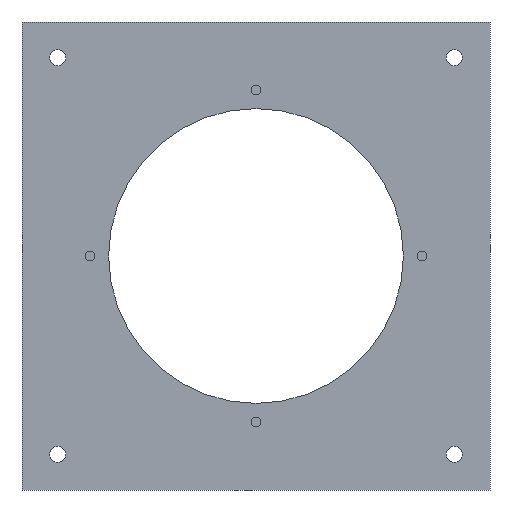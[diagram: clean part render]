
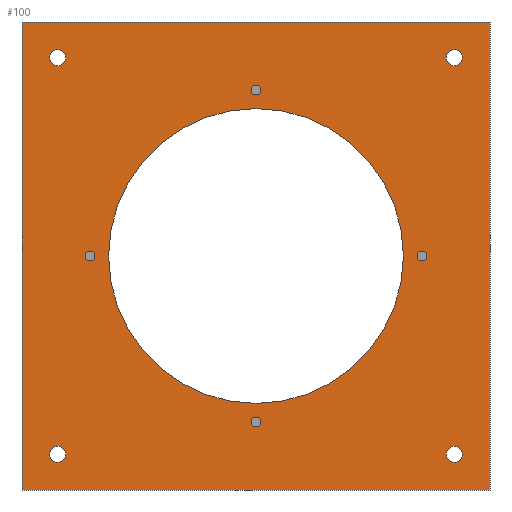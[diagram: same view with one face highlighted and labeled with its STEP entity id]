
A CAD part, front view. The second image highlights one B-rep face of the part: STEP entity #100.
In plain terms, the highlighted planar face has unit normal (0, -1, 0).
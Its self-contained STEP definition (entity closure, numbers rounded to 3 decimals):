
#100=ADVANCED_FACE('',(#197,#198,#199,#200,#201,#202,#203,#204,#205,#206),#207,.F.);
#197=FACE_BOUND('',#302,.T.);
#198=FACE_BOUND('',#303,.T.);
#199=FACE_BOUND('',#304,.T.);
#200=FACE_BOUND('',#305,.T.);
#201=FACE_BOUND('',#306,.T.);
#202=FACE_BOUND('',#307,.T.);
#203=FACE_BOUND('',#308,.T.);
#204=FACE_BOUND('',#309,.T.);
#205=FACE_BOUND('',#310,.T.);
#206=FACE_OUTER_BOUND('',#311,.T.);
#207=PLANE('',#312);
#302=EDGE_LOOP('',(#513,#514));
#303=EDGE_LOOP('',(#515,#516));
#304=EDGE_LOOP('',(#517,#518));
#305=EDGE_LOOP('',(#519,#520));
#306=EDGE_LOOP('',(#521,#522));
#307=EDGE_LOOP('',(#523,#524));
#308=EDGE_LOOP('',(#525,#526));
#309=EDGE_LOOP('',(#527,#528));
#310=EDGE_LOOP('',(#529,#530));
#311=EDGE_LOOP('',(#531,#532,#533,#534));
#312=AXIS2_PLACEMENT_3D('',#535,#536,#537);
#513=ORIENTED_EDGE('',*,*,#614,.T.);
#514=ORIENTED_EDGE('',*,*,#619,.T.);
#515=ORIENTED_EDGE('',*,*,#609,.T.);
#516=ORIENTED_EDGE('',*,*,#623,.T.);
#517=ORIENTED_EDGE('',*,*,#604,.T.);
#518=ORIENTED_EDGE('',*,*,#627,.T.);
#519=ORIENTED_EDGE('',*,*,#599,.T.);
#520=ORIENTED_EDGE('',*,*,#631,.T.);
#521=ORIENTED_EDGE('',*,*,#634,.T.);
#522=ORIENTED_EDGE('',*,*,#596,.T.);
#523=ORIENTED_EDGE('',*,*,#637,.T.);
#524=ORIENTED_EDGE('',*,*,#591,.T.);
#525=ORIENTED_EDGE('',*,*,#640,.T.);
#526=ORIENTED_EDGE('',*,*,#586,.T.);
#527=ORIENTED_EDGE('',*,*,#643,.T.);
#528=ORIENTED_EDGE('',*,*,#581,.T.);
#529=ORIENTED_EDGE('',*,*,#574,.T.);
#530=ORIENTED_EDGE('',*,*,#647,.T.);
#531=ORIENTED_EDGE('',*,*,#659,.T.);
#532=ORIENTED_EDGE('',*,*,#655,.F.);
#533=ORIENTED_EDGE('',*,*,#660,.F.);
#534=ORIENTED_EDGE('',*,*,#652,.F.);
#535=CARTESIAN_POINT('',(0.0,-4.0,0.0));
#536=DIRECTION('',(0.0,1.0,0.0));
#537=DIRECTION('',(0.0,0.0,1.0));
#574=EDGE_CURVE('',#670,#667,#671,.T.);
#581=EDGE_CURVE('',#677,#681,#683,.T.);
#586=EDGE_CURVE('',#686,#690,#692,.T.);
#591=EDGE_CURVE('',#695,#699,#701,.T.);
#596=EDGE_CURVE('',#704,#708,#710,.T.);
#599=EDGE_CURVE('',#715,#712,#716,.T.);
#604=EDGE_CURVE('',#724,#721,#725,.T.);
#609=EDGE_CURVE('',#733,#730,#734,.T.);
#614=EDGE_CURVE('',#742,#739,#743,.T.);
#619=EDGE_CURVE('',#739,#742,#749,.T.);
#623=EDGE_CURVE('',#730,#733,#753,.T.);
#627=EDGE_CURVE('',#721,#724,#757,.T.);
#631=EDGE_CURVE('',#712,#715,#761,.T.);
#634=EDGE_CURVE('',#708,#704,#764,.T.);
#637=EDGE_CURVE('',#699,#695,#767,.T.);
#640=EDGE_CURVE('',#690,#686,#770,.T.);
#643=EDGE_CURVE('',#681,#677,#773,.T.);
#647=EDGE_CURVE('',#667,#670,#777,.T.);
#652=EDGE_CURVE('',#784,#779,#786,.T.);
#655=EDGE_CURVE('',#789,#791,#792,.T.);
#659=EDGE_CURVE('',#784,#791,#797,.T.);
#660=EDGE_CURVE('',#779,#789,#798,.T.);
#667=VERTEX_POINT('',#805);
#670=VERTEX_POINT('',#809);
#671=CIRCLE('',#810,91.0);
#677=VERTEX_POINT('',#817);
#681=VERTEX_POINT('',#822);
#683=CIRCLE('',#825,5.0);
#686=VERTEX_POINT('',#828);
#690=VERTEX_POINT('',#833);
#692=CIRCLE('',#836,5.0);
#695=VERTEX_POINT('',#839);
#699=VERTEX_POINT('',#844);
#701=CIRCLE('',#847,5.0);
#704=VERTEX_POINT('',#850);
#708=VERTEX_POINT('',#855);
#710=CIRCLE('',#858,5.0);
#712=VERTEX_POINT('',#860);
#715=VERTEX_POINT('',#864);
#716=CIRCLE('',#865,3.0);
#721=VERTEX_POINT('',#871);
#724=VERTEX_POINT('',#875);
#725=CIRCLE('',#876,3.0);
#730=VERTEX_POINT('',#882);
#733=VERTEX_POINT('',#886);
#734=CIRCLE('',#887,3.0);
#739=VERTEX_POINT('',#893);
#742=VERTEX_POINT('',#897);
#743=CIRCLE('',#898,3.0);
#749=CIRCLE('',#905,3.0);
#753=CIRCLE('',#909,3.0);
#757=CIRCLE('',#913,3.0);
#761=CIRCLE('',#917,3.0);
#764=CIRCLE('',#920,5.0);
#767=CIRCLE('',#923,5.0);
#770=CIRCLE('',#926,5.0);
#773=CIRCLE('',#929,5.0);
#777=CIRCLE('',#933,91.0);
#779=VERTEX_POINT('',#935);
#784=VERTEX_POINT('',#942);
#786=LINE('',#945,#946);
#789=VERTEX_POINT('',#949);
#791=VERTEX_POINT('',#952);
#792=LINE('',#953,#954);
#797=LINE('',#961,#962);
#798=LINE('',#963,#964);
#805=CARTESIAN_POINT('',(91.0,-4.0,0.));
#809=CARTESIAN_POINT('',(-91.0,-4.0,0.));
#810=AXIS2_PLACEMENT_3D('',#973,#974,#975);
#817=CARTESIAN_POINT('',(-117.5,-4.0,-122.5));
#822=CARTESIAN_POINT('',(-127.5,-4.0,-122.5));
#825=AXIS2_PLACEMENT_3D('',#985,#986,#987);
#828=CARTESIAN_POINT('',(-122.5,-4.0,117.5));
#833=CARTESIAN_POINT('',(-122.5,-4.0,127.5));
#836=AXIS2_PLACEMENT_3D('',#993,#994,#995);
#839=CARTESIAN_POINT('',(117.5,-4.0,122.5));
#844=CARTESIAN_POINT('',(127.5,-4.0,122.5));
#847=AXIS2_PLACEMENT_3D('',#1001,#1002,#1003);
#850=CARTESIAN_POINT('',(122.5,-4.0,-117.5));
#855=CARTESIAN_POINT('',(122.5,-4.0,-127.5));
#858=AXIS2_PLACEMENT_3D('',#1009,#1010,#1011);
#860=CARTESIAN_POINT('',(105.5,-4.0,0.));
#864=CARTESIAN_POINT('',(99.5,-4.0,0.));
#865=AXIS2_PLACEMENT_3D('',#1013,#1014,#1015);
#871=CARTESIAN_POINT('',(0.,-4.0,-105.5));
#875=CARTESIAN_POINT('',(0.,-4.0,-99.5));
#876=AXIS2_PLACEMENT_3D('',#1021,#1022,#1023);
#882=CARTESIAN_POINT('',(-105.5,-4.0,0.));
#886=CARTESIAN_POINT('',(-99.5,-4.0,0.));
#887=AXIS2_PLACEMENT_3D('',#1029,#1030,#1031);
#893=CARTESIAN_POINT('',(0.,-4.0,105.5));
#897=CARTESIAN_POINT('',(0.,-4.0,99.5));
#898=AXIS2_PLACEMENT_3D('',#1037,#1038,#1039);
#905=AXIS2_PLACEMENT_3D('',#1047,#1048,#1049);
#909=AXIS2_PLACEMENT_3D('',#1053,#1054,#1055);
#913=AXIS2_PLACEMENT_3D('',#1059,#1060,#1061);
#917=AXIS2_PLACEMENT_3D('',#1065,#1066,#1067);
#920=AXIS2_PLACEMENT_3D('',#1068,#1069,#1070);
#923=AXIS2_PLACEMENT_3D('',#1074,#1075,#1076);
#926=AXIS2_PLACEMENT_3D('',#1080,#1081,#1082);
#929=AXIS2_PLACEMENT_3D('',#1086,#1087,#1088);
#933=AXIS2_PLACEMENT_3D('',#1095,#1096,#1097);
#935=CARTESIAN_POINT('',(144.5,-4.0,144.5));
#942=CARTESIAN_POINT('',(-144.5,-4.0,144.5));
#945=CARTESIAN_POINT('',(0.0,-4.0,144.5));
#946=VECTOR('',#1101,1.0);
#949=CARTESIAN_POINT('',(144.5,-4.0,-144.5));
#952=CARTESIAN_POINT('',(-144.5,-4.0,-144.5));
#953=CARTESIAN_POINT('',(0.0,-4.0,-144.5));
#954=VECTOR('',#1103,1.0);
#961=CARTESIAN_POINT('',(-144.5,-4.0,0.0));
#962=VECTOR('',#1106,1.0);
#963=CARTESIAN_POINT('',(144.5,-4.0,0.0));
#964=VECTOR('',#1107,1.0);
#973=CARTESIAN_POINT('',(0.0,-4.0,0.0));
#974=DIRECTION('',(-0.0,1.0,0.0));
#975=DIRECTION('',(1.0,0.0,0.0));
#985=CARTESIAN_POINT('',(-122.5,-4.0,-122.5));
#986=DIRECTION('',(-0.0,1.0,0.0));
#987=DIRECTION('',(1.0,0.0,0.0));
#993=CARTESIAN_POINT('',(-122.5,-4.0,122.5));
#994=DIRECTION('',(0.0,1.0,0.0));
#995=DIRECTION('',(0.,0.0,-1.0));
#1001=CARTESIAN_POINT('',(122.5,-4.0,122.5));
#1002=DIRECTION('',(0.0,1.0,0.0));
#1003=DIRECTION('',(-1.0,0.0,0.));
#1009=CARTESIAN_POINT('',(122.5,-4.0,-122.5));
#1010=DIRECTION('',(0.0,1.0,0.0));
#1011=DIRECTION('',(0.,0.0,1.0));
#1013=CARTESIAN_POINT('',(102.5,-4.0,0.0));
#1014=DIRECTION('',(-0.0,1.0,0.0));
#1015=DIRECTION('',(1.0,0.0,0.0));
#1021=CARTESIAN_POINT('',(0.,-4.0,-102.5));
#1022=DIRECTION('',(0.0,1.0,0.0));
#1023=DIRECTION('',(0.,0.0,-1.0));
#1029=CARTESIAN_POINT('',(-102.5,-4.0,0.));
#1030=DIRECTION('',(0.0,1.0,0.0));
#1031=DIRECTION('',(-1.0,0.0,0.));
#1037=CARTESIAN_POINT('',(0.,-4.0,102.5));
#1038=DIRECTION('',(0.0,1.0,0.0));
#1039=DIRECTION('',(0.,0.0,1.0));
#1047=CARTESIAN_POINT('',(0.,-4.0,102.5));
#1048=DIRECTION('',(0.0,1.0,0.0));
#1049=DIRECTION('',(0.,0.0,1.0));
#1053=CARTESIAN_POINT('',(-102.5,-4.0,0.));
#1054=DIRECTION('',(0.0,1.0,0.0));
#1055=DIRECTION('',(-1.0,0.0,0.));
#1059=CARTESIAN_POINT('',(0.,-4.0,-102.5));
#1060=DIRECTION('',(0.0,1.0,0.0));
#1061=DIRECTION('',(0.,0.0,-1.0));
#1065=CARTESIAN_POINT('',(102.5,-4.0,0.0));
#1066=DIRECTION('',(-0.0,1.0,0.0));
#1067=DIRECTION('',(1.0,0.0,0.0));
#1068=CARTESIAN_POINT('',(122.5,-4.0,-122.5));
#1069=DIRECTION('',(0.0,1.0,0.0));
#1070=DIRECTION('',(0.,0.0,1.0));
#1074=CARTESIAN_POINT('',(122.5,-4.0,122.5));
#1075=DIRECTION('',(0.0,1.0,0.0));
#1076=DIRECTION('',(-1.0,0.0,0.));
#1080=CARTESIAN_POINT('',(-122.5,-4.0,122.5));
#1081=DIRECTION('',(0.0,1.0,0.0));
#1082=DIRECTION('',(0.,0.0,-1.0));
#1086=CARTESIAN_POINT('',(-122.5,-4.0,-122.5));
#1087=DIRECTION('',(-0.0,1.0,0.0));
#1088=DIRECTION('',(1.0,0.0,0.0));
#1095=CARTESIAN_POINT('',(0.0,-4.0,0.0));
#1096=DIRECTION('',(-0.0,1.0,0.0));
#1097=DIRECTION('',(1.0,0.0,0.0));
#1101=DIRECTION('',(1.0,0.0,0.0));
#1103=DIRECTION('',(-1.0,0.0,0.0));
#1106=DIRECTION('',(0.0,0.0,-1.0));
#1107=DIRECTION('',(0.0,0.0,-1.0));
